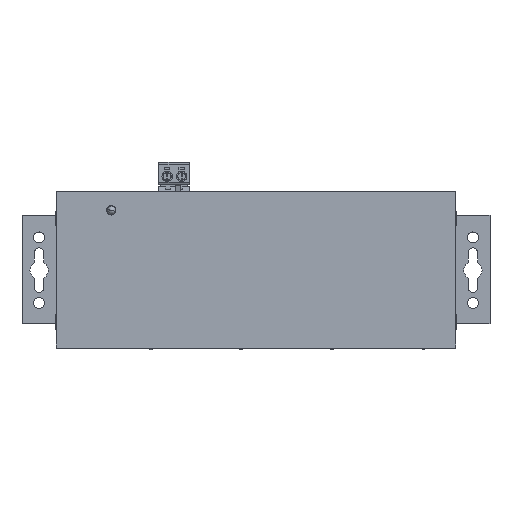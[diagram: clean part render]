
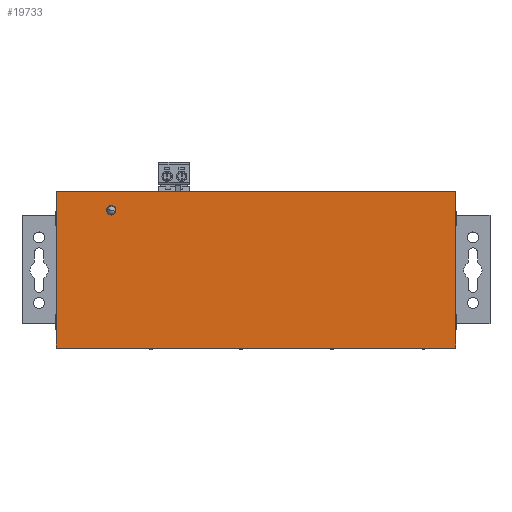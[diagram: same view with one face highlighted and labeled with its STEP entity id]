
A CAD part, top view. The second image highlights one B-rep face of the part: STEP entity #19733.
In plain terms, the highlighted planar face has unit normal (0, 0, 1).
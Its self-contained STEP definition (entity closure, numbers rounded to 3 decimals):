
#3528 = CYLINDRICAL_SURFACE('',#3529,1.8);
#3529 = AXIS2_PLACEMENT_3D('',#3530,#3531,#3532);
#3530 = CARTESIAN_POINT('',(34.05,52.55,20.));
#3531 = DIRECTION('',(0.,0.,1.));
#3532 = DIRECTION('',(1.,0.,0.));
#8867 = EDGE_CURVE('',#8868,#8868,#8870,.T.);
#8868 = VERTEX_POINT('',#8869);
#8869 = CARTESIAN_POINT('',(35.85,52.55,25.45));
#8870 = SURFACE_CURVE('',#8871,(#8876,#8883),.PCURVE_S1.);
#8871 = CIRCLE('',#8872,1.8);
#8872 = AXIS2_PLACEMENT_3D('',#8873,#8874,#8875);
#8873 = CARTESIAN_POINT('',(34.05,52.55,25.45));
#8874 = DIRECTION('',(0.,0.,1.));
#8875 = DIRECTION('',(1.,0.,0.));
#8876 = PCURVE('',#3528,#8877);
#8877 = DEFINITIONAL_REPRESENTATION('',(#8878),#8882);
#8878 = LINE('',#8879,#8880);
#8879 = CARTESIAN_POINT('',(0.,5.45));
#8880 = VECTOR('',#8881,1.);
#8881 = DIRECTION('',(1.,0.));
#8882 = ( GEOMETRIC_REPRESENTATION_CONTEXT(2) 
PARAMETRIC_REPRESENTATION_CONTEXT() REPRESENTATION_CONTEXT('2D SPACE',''
  ) );
#8883 = PCURVE('',#8884,#8889);
#8884 = PLANE('',#8885);
#8885 = AXIS2_PLACEMENT_3D('',#8886,#8887,#8888);
#8886 = CARTESIAN_POINT('',(0.,0.,25.45));
#8887 = DIRECTION('',(0.,0.,1.));
#8888 = DIRECTION('',(1.,0.,0.));
#8889 = DEFINITIONAL_REPRESENTATION('',(#8890),#8894);
#8890 = CIRCLE('',#8891,1.8);
#8891 = AXIS2_PLACEMENT_2D('',#8892,#8893);
#8892 = CARTESIAN_POINT('',(34.05,52.55));
#8893 = DIRECTION('',(1.,0.));
#8894 = ( GEOMETRIC_REPRESENTATION_CONTEXT(2) 
PARAMETRIC_REPRESENTATION_CONTEXT() REPRESENTATION_CONTEXT('2D SPACE',''
  ) );
#9514 = PLANE('',#9515);
#9515 = AXIS2_PLACEMENT_3D('',#9516,#9517,#9518);
#9516 = CARTESIAN_POINT('',(0.,59.9,0.));
#9517 = DIRECTION('',(0.,1.,0.));
#9518 = DIRECTION('',(0.,0.,1.));
#13772 = PLANE('',#13773);
#13773 = AXIS2_PLACEMENT_3D('',#13774,#13775,#13776);
#13774 = CARTESIAN_POINT('',(13.,9.25,0.));
#13775 = DIRECTION('',(-1.,0.,0.));
#13776 = DIRECTION('',(0.,0.,-1.));
#16358 = PLANE('',#16359);
#16359 = AXIS2_PLACEMENT_3D('',#16360,#16361,#16362);
#16360 = CARTESIAN_POINT('',(165.6,0.,0.));
#16361 = DIRECTION('',(1.,0.,0.));
#16362 = DIRECTION('',(0.,0.,1.));
#19733 = ADVANCED_FACE('',(#19734,#19831),#8884,.T.);
#19734 = FACE_BOUND('',#19735,.T.);
#19735 = EDGE_LOOP('',(#19736,#19761,#19783,#19811));
#19736 = ORIENTED_EDGE('',*,*,#19737,.F.);
#19737 = EDGE_CURVE('',#19738,#19740,#19742,.T.);
#19738 = VERTEX_POINT('',#19739);
#19739 = CARTESIAN_POINT('',(13.,59.9,25.45));
#19740 = VERTEX_POINT('',#19741);
#19741 = CARTESIAN_POINT('',(165.6,59.9,25.45));
#19742 = SURFACE_CURVE('',#19743,(#19747,#19754),.PCURVE_S1.);
#19743 = LINE('',#19744,#19745);
#19744 = CARTESIAN_POINT('',(0.,59.9,25.45));
#19745 = VECTOR('',#19746,1.);
#19746 = DIRECTION('',(1.,0.,0.));
#19747 = PCURVE('',#8884,#19748);
#19748 = DEFINITIONAL_REPRESENTATION('',(#19749),#19753);
#19749 = LINE('',#19750,#19751);
#19750 = CARTESIAN_POINT('',(0.,59.9));
#19751 = VECTOR('',#19752,1.);
#19752 = DIRECTION('',(1.,0.));
#19753 = ( GEOMETRIC_REPRESENTATION_CONTEXT(2) 
PARAMETRIC_REPRESENTATION_CONTEXT() REPRESENTATION_CONTEXT('2D SPACE',''
  ) );
#19754 = PCURVE('',#9514,#19755);
#19755 = DEFINITIONAL_REPRESENTATION('',(#19756),#19760);
#19756 = LINE('',#19757,#19758);
#19757 = CARTESIAN_POINT('',(25.45,0.));
#19758 = VECTOR('',#19759,1.);
#19759 = DIRECTION('',(0.,1.));
#19760 = ( GEOMETRIC_REPRESENTATION_CONTEXT(2) 
PARAMETRIC_REPRESENTATION_CONTEXT() REPRESENTATION_CONTEXT('2D SPACE',''
  ) );
#19761 = ORIENTED_EDGE('',*,*,#19762,.F.);
#19762 = EDGE_CURVE('',#19763,#19738,#19765,.T.);
#19763 = VERTEX_POINT('',#19764);
#19764 = CARTESIAN_POINT('',(13.,0.,25.45));
#19765 = SURFACE_CURVE('',#19766,(#19770,#19776),.PCURVE_S1.);
#19766 = LINE('',#19767,#19768);
#19767 = CARTESIAN_POINT('',(13.,0.,25.45));
#19768 = VECTOR('',#19769,1.);
#19769 = DIRECTION('',(0.,1.,0.));
#19770 = PCURVE('',#8884,#19771);
#19771 = DEFINITIONAL_REPRESENTATION('',(#19772),#19775);
#19772 = B_SPLINE_CURVE_WITH_KNOTS('',1,(#19773,#19774),.UNSPECIFIED.,
  .F.,.F.,(2,2),(-5.99,65.89),.PIECEWISE_BEZIER_KNOTS.);
#19773 = CARTESIAN_POINT('',(13.,-5.99));
#19774 = CARTESIAN_POINT('',(13.,65.89));
#19775 = ( GEOMETRIC_REPRESENTATION_CONTEXT(2) 
PARAMETRIC_REPRESENTATION_CONTEXT() REPRESENTATION_CONTEXT('2D SPACE',''
  ) );
#19776 = PCURVE('',#13772,#19777);
#19777 = DEFINITIONAL_REPRESENTATION('',(#19778),#19782);
#19778 = LINE('',#19779,#19780);
#19779 = CARTESIAN_POINT('',(-25.45,9.25));
#19780 = VECTOR('',#19781,1.);
#19781 = DIRECTION('',(0.,-1.));
#19782 = ( GEOMETRIC_REPRESENTATION_CONTEXT(2) 
PARAMETRIC_REPRESENTATION_CONTEXT() REPRESENTATION_CONTEXT('2D SPACE',''
  ) );
#19783 = ORIENTED_EDGE('',*,*,#19784,.T.);
#19784 = EDGE_CURVE('',#19763,#19785,#19787,.T.);
#19785 = VERTEX_POINT('',#19786);
#19786 = CARTESIAN_POINT('',(165.6,0.,25.45));
#19787 = SURFACE_CURVE('',#19788,(#19792,#19799),.PCURVE_S1.);
#19788 = LINE('',#19789,#19790);
#19789 = CARTESIAN_POINT('',(0.,0.,25.45));
#19790 = VECTOR('',#19791,1.);
#19791 = DIRECTION('',(1.,0.,0.));
#19792 = PCURVE('',#8884,#19793);
#19793 = DEFINITIONAL_REPRESENTATION('',(#19794),#19798);
#19794 = LINE('',#19795,#19796);
#19795 = CARTESIAN_POINT('',(0.,0.));
#19796 = VECTOR('',#19797,1.);
#19797 = DIRECTION('',(1.,0.));
#19798 = ( GEOMETRIC_REPRESENTATION_CONTEXT(2) 
PARAMETRIC_REPRESENTATION_CONTEXT() REPRESENTATION_CONTEXT('2D SPACE',''
  ) );
#19799 = PCURVE('',#19800,#19805);
#19800 = PLANE('',#19801);
#19801 = AXIS2_PLACEMENT_3D('',#19802,#19803,#19804);
#19802 = CARTESIAN_POINT('',(0.,0.,0.));
#19803 = DIRECTION('',(0.,1.,0.));
#19804 = DIRECTION('',(0.,0.,1.));
#19805 = DEFINITIONAL_REPRESENTATION('',(#19806),#19810);
#19806 = LINE('',#19807,#19808);
#19807 = CARTESIAN_POINT('',(25.45,0.));
#19808 = VECTOR('',#19809,1.);
#19809 = DIRECTION('',(0.,1.));
#19810 = ( GEOMETRIC_REPRESENTATION_CONTEXT(2) 
PARAMETRIC_REPRESENTATION_CONTEXT() REPRESENTATION_CONTEXT('2D SPACE',''
  ) );
#19811 = ORIENTED_EDGE('',*,*,#19812,.T.);
#19812 = EDGE_CURVE('',#19785,#19740,#19813,.T.);
#19813 = SURFACE_CURVE('',#19814,(#19818,#19824),.PCURVE_S1.);
#19814 = LINE('',#19815,#19816);
#19815 = CARTESIAN_POINT('',(165.6,0.,25.45));
#19816 = VECTOR('',#19817,1.);
#19817 = DIRECTION('',(0.,1.,0.));
#19818 = PCURVE('',#8884,#19819);
#19819 = DEFINITIONAL_REPRESENTATION('',(#19820),#19823);
#19820 = B_SPLINE_CURVE_WITH_KNOTS('',1,(#19821,#19822),.UNSPECIFIED.,
  .F.,.F.,(2,2),(-5.99,65.89),.PIECEWISE_BEZIER_KNOTS.);
#19821 = CARTESIAN_POINT('',(165.6,-5.99));
#19822 = CARTESIAN_POINT('',(165.6,65.89));
#19823 = ( GEOMETRIC_REPRESENTATION_CONTEXT(2) 
PARAMETRIC_REPRESENTATION_CONTEXT() REPRESENTATION_CONTEXT('2D SPACE',''
  ) );
#19824 = PCURVE('',#16358,#19825);
#19825 = DEFINITIONAL_REPRESENTATION('',(#19826),#19830);
#19826 = LINE('',#19827,#19828);
#19827 = CARTESIAN_POINT('',(25.45,0.));
#19828 = VECTOR('',#19829,1.);
#19829 = DIRECTION('',(0.,-1.));
#19830 = ( GEOMETRIC_REPRESENTATION_CONTEXT(2) 
PARAMETRIC_REPRESENTATION_CONTEXT() REPRESENTATION_CONTEXT('2D SPACE',''
  ) );
#19831 = FACE_BOUND('',#19832,.T.);
#19832 = EDGE_LOOP('',(#19833));
#19833 = ORIENTED_EDGE('',*,*,#8867,.F.);
